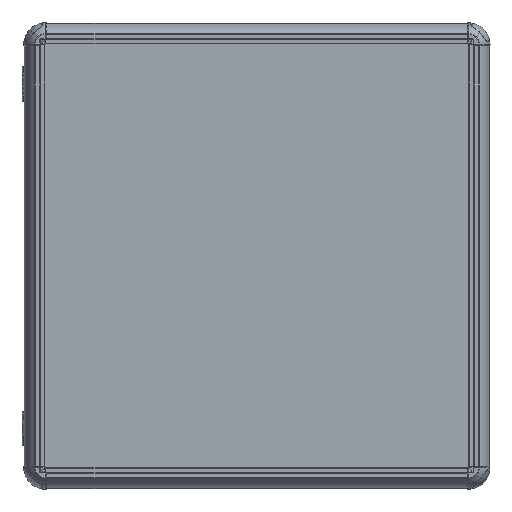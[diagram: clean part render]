
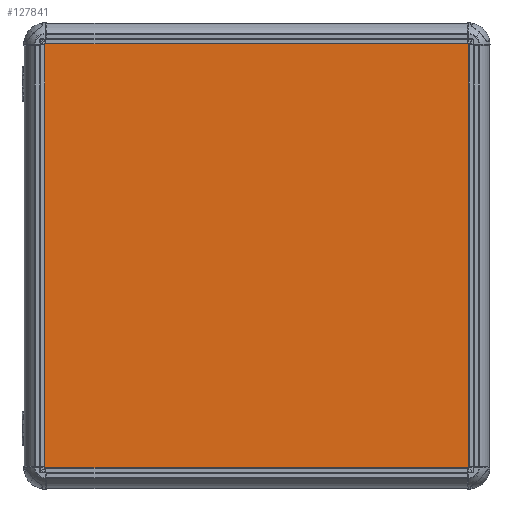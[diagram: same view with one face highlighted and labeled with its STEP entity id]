
A CAD part, top view. The second image highlights one B-rep face of the part: STEP entity #127841.
In plain terms, the highlighted planar face has unit normal (0, 0, 1).
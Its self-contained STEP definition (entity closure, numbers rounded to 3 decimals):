
#3839 = DIRECTION ( 'NONE',  ( 0., 1., 0. ) ) ;
#6028 = CARTESIAN_POINT ( 'NONE',  ( -250., 250., 2. ) ) ;
#7744 = VECTOR ( 'NONE', #142204, 1000. ) ;
#9222 = EDGE_CURVE ( 'NONE', #24708, #44516, #74019, .T. ) ;
#11578 = CARTESIAN_POINT ( 'NONE',  ( 250., -250., 2. ) ) ;
#15697 = VERTEX_POINT ( 'NONE', #145699 ) ;
#15785 = VECTOR ( 'NONE', #3839, 1000. ) ;
#18830 = DIRECTION ( 'NONE',  ( 0., -1., 0. ) ) ;
#23387 = VECTOR ( 'NONE', #50697, 1000. ) ;
#24708 = VERTEX_POINT ( 'NONE', #11578 ) ;
#26101 = LINE ( 'NONE', #111414, #23387 ) ;
#29462 = EDGE_CURVE ( 'NONE', #44516, #15697, #26101, .T. ) ;
#44516 = VERTEX_POINT ( 'NONE', #45613 ) ;
#45613 = CARTESIAN_POINT ( 'NONE',  ( 250., 250., 2. ) ) ;
#45817 = LINE ( 'NONE', #6028, #141819 ) ;
#48071 = CARTESIAN_POINT ( 'NONE',  ( -250., -250., 2. ) ) ;
#50697 = DIRECTION ( 'NONE',  ( -1., 0., 0. ) ) ;
#51092 = CARTESIAN_POINT ( 'NONE',  ( 0., 0., 2. ) ) ;
#66840 = EDGE_CURVE ( 'NONE', #121754, #24708, #143794, .T. ) ;
#73468 = DIRECTION ( 'NONE',  ( 0., 0., 1. ) ) ;
#74019 = LINE ( 'NONE', #147365, #15785 ) ;
#76647 = FACE_OUTER_BOUND ( 'NONE', #151811, .T. ) ;
#84272 = ORIENTED_EDGE ( 'NONE', *, *, #66840, .T. ) ;
#86312 = PLANE ( 'NONE',  #115374 ) ;
#88033 = ORIENTED_EDGE ( 'NONE', *, *, #29462, .T. ) ;
#93672 = EDGE_CURVE ( 'NONE', #15697, #121754, #45817, .T. ) ;
#111414 = CARTESIAN_POINT ( 'NONE',  ( -250., 250., 2. ) ) ;
#111832 = ORIENTED_EDGE ( 'NONE', *, *, #93672, .T. ) ;
#115357 = ORIENTED_EDGE ( 'NONE', *, *, #9222, .T. ) ;
#115374 = AXIS2_PLACEMENT_3D ( 'NONE', #51092, #73468, #136558 ) ;
#121754 = VERTEX_POINT ( 'NONE', #48071 ) ;
#127841 = ADVANCED_FACE ( 'NONE', ( #76647 ), #86312, .T. ) ;
#130324 = CARTESIAN_POINT ( 'NONE',  ( -250., -250., 2. ) ) ;
#136558 = DIRECTION ( 'NONE',  ( 1., 0., 0. ) ) ;
#141819 = VECTOR ( 'NONE', #18830, 1000. ) ;
#142204 = DIRECTION ( 'NONE',  ( 1., 0., 0. ) ) ;
#143794 = LINE ( 'NONE', #130324, #7744 ) ;
#145699 = CARTESIAN_POINT ( 'NONE',  ( -250., 250., 2. ) ) ;
#147365 = CARTESIAN_POINT ( 'NONE',  ( 250., 250., 2. ) ) ;
#151811 = EDGE_LOOP ( 'NONE', ( #115357, #88033, #111832, #84272 ) ) ;
